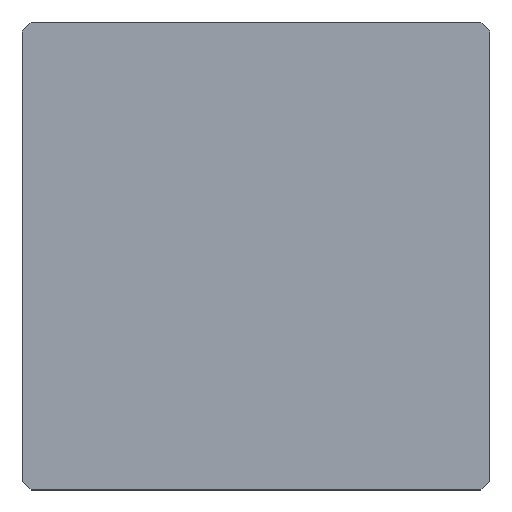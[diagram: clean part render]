
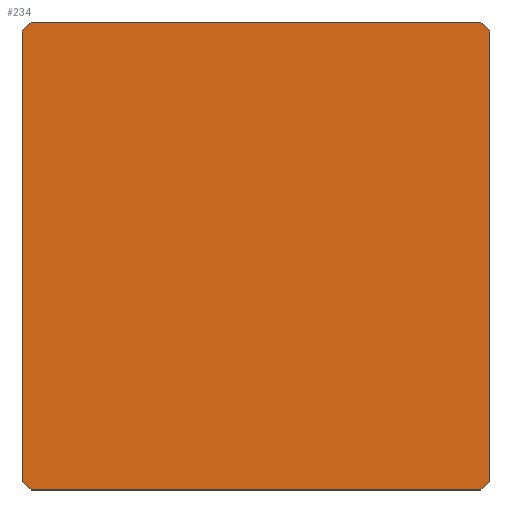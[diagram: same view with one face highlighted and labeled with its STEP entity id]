
A CAD part, top view. The second image highlights one B-rep face of the part: STEP entity #234.
In plain terms, the highlighted planar face has unit normal (0, 0, 1).
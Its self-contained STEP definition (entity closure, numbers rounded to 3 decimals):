
#5 = VECTOR ( 'NONE', #68, 1000. ) ;
#6 = CARTESIAN_POINT ( 'NONE',  ( 2.6, 2.6, 0.5 ) ) ;
#14 = CARTESIAN_POINT ( 'NONE',  ( -2.5, -2.6, 0.5 ) ) ;
#28 = DIRECTION ( 'NONE',  ( 0.707, 0.707, 0. ) ) ;
#29 = VECTOR ( 'NONE', #70, 1000. ) ;
#36 = LINE ( 'NONE', #152, #29 ) ;
#41 = LINE ( 'NONE', #303, #189 ) ;
#44 = DIRECTION ( 'NONE',  ( -0.707, -0.707, 0. ) ) ;
#46 = EDGE_LOOP ( 'NONE', ( #316, #85, #109, #134, #308, #197, #112, #320 ) ) ;
#51 = EDGE_CURVE ( 'NONE', #148, #53, #347, .T. ) ;
#53 = VERTEX_POINT ( 'NONE', #259 ) ;
#56 = CARTESIAN_POINT ( 'NONE',  ( 0., 0., 0.5 ) ) ;
#63 = DIRECTION ( 'NONE',  ( 0., -1., 0. ) ) ;
#65 = DIRECTION ( 'NONE',  ( 1., 0., 0. ) ) ;
#68 = DIRECTION ( 'NONE',  ( 0., 1., 0. ) ) ;
#69 = CARTESIAN_POINT ( 'NONE',  ( 2.5, 2.6, 0.5 ) ) ;
#70 = DIRECTION ( 'NONE',  ( -1., 0., 0. ) ) ;
#77 = EDGE_CURVE ( 'NONE', #93, #120, #171, .T. ) ;
#85 = ORIENTED_EDGE ( 'NONE', *, *, #77, .T. ) ;
#86 = CARTESIAN_POINT ( 'NONE',  ( 2.6, 2.5, 0.5 ) ) ;
#93 = VERTEX_POINT ( 'NONE', #188 ) ;
#96 = CARTESIAN_POINT ( 'NONE',  ( 2.55, -2.55, 0.5 ) ) ;
#101 = CARTESIAN_POINT ( 'NONE',  ( -2.6, 2.5, 0.5 ) ) ;
#103 = AXIS2_PLACEMENT_3D ( 'NONE', #56, #147, #65 ) ;
#109 = ORIENTED_EDGE ( 'NONE', *, *, #237, .T. ) ;
#112 = ORIENTED_EDGE ( 'NONE', *, *, #140, .T. ) ;
#114 = DIRECTION ( 'NONE',  ( 1., 0., 0. ) ) ;
#118 = VECTOR ( 'NONE', #283, 1000. ) ;
#120 = VERTEX_POINT ( 'NONE', #14 ) ;
#132 = VERTEX_POINT ( 'NONE', #101 ) ;
#134 = ORIENTED_EDGE ( 'NONE', *, *, #51, .T. ) ;
#138 = VERTEX_POINT ( 'NONE', #69 ) ;
#140 = EDGE_CURVE ( 'NONE', #138, #266, #36, .T. ) ;
#147 = DIRECTION ( 'NONE',  ( 0., 0., 1. ) ) ;
#148 = VERTEX_POINT ( 'NONE', #268 ) ;
#152 = CARTESIAN_POINT ( 'NONE',  ( -2.6, 2.6, 0.5 ) ) ;
#167 = EDGE_CURVE ( 'NONE', #53, #284, #270, .T. ) ;
#171 = LINE ( 'NONE', #282, #285 ) ;
#179 = LINE ( 'NONE', #293, #231 ) ;
#188 = CARTESIAN_POINT ( 'NONE',  ( -2.6, -2.5, 0.5 ) ) ;
#189 = VECTOR ( 'NONE', #44, 1000. ) ;
#192 = EDGE_CURVE ( 'NONE', #132, #93, #203, .T. ) ;
#197 = ORIENTED_EDGE ( 'NONE', *, *, #250, .T. ) ;
#203 = LINE ( 'NONE', #369, #357 ) ;
#231 = VECTOR ( 'NONE', #114, 1000. ) ;
#233 = FACE_OUTER_BOUND ( 'NONE', #46, .T. ) ;
#234 = ADVANCED_FACE ( 'NONE', ( #233 ), #236, .T. ) ;
#236 = PLANE ( 'NONE',  #103 ) ;
#237 = EDGE_CURVE ( 'NONE', #120, #148, #179, .T. ) ;
#250 = EDGE_CURVE ( 'NONE', #284, #138, #291, .T. ) ;
#259 = CARTESIAN_POINT ( 'NONE',  ( 2.6, -2.5, 0.5 ) ) ;
#266 = VERTEX_POINT ( 'NONE', #338 ) ;
#268 = CARTESIAN_POINT ( 'NONE',  ( 2.5, -2.6, 0.5 ) ) ;
#270 = LINE ( 'NONE', #6, #5 ) ;
#282 = CARTESIAN_POINT ( 'NONE',  ( -2.55, -2.55, 0.5 ) ) ;
#283 = DIRECTION ( 'NONE',  ( -0.707, 0.707, 0. ) ) ;
#284 = VERTEX_POINT ( 'NONE', #86 ) ;
#285 = VECTOR ( 'NONE', #342, 1000. ) ;
#291 = LINE ( 'NONE', #343, #118 ) ;
#293 = CARTESIAN_POINT ( 'NONE',  ( -2.6, -2.6, 0.5 ) ) ;
#303 = CARTESIAN_POINT ( 'NONE',  ( -2.55, 2.55, 0.5 ) ) ;
#308 = ORIENTED_EDGE ( 'NONE', *, *, #167, .T. ) ;
#316 = ORIENTED_EDGE ( 'NONE', *, *, #192, .T. ) ;
#317 = VECTOR ( 'NONE', #28, 1000. ) ;
#320 = ORIENTED_EDGE ( 'NONE', *, *, #344, .T. ) ;
#338 = CARTESIAN_POINT ( 'NONE',  ( -2.5, 2.6, 0.5 ) ) ;
#342 = DIRECTION ( 'NONE',  ( 0.707, -0.707, 0. ) ) ;
#343 = CARTESIAN_POINT ( 'NONE',  ( 2.55, 2.55, 0.5 ) ) ;
#344 = EDGE_CURVE ( 'NONE', #266, #132, #41, .T. ) ;
#347 = LINE ( 'NONE', #96, #317 ) ;
#357 = VECTOR ( 'NONE', #63, 1000. ) ;
#369 = CARTESIAN_POINT ( 'NONE',  ( -2.6, 2.6, 0.5 ) ) ;
